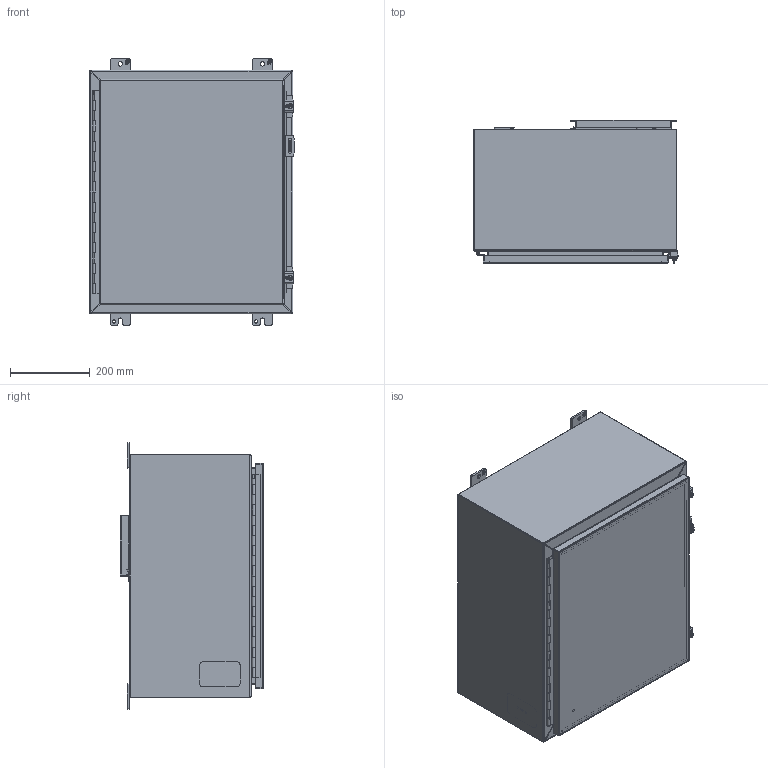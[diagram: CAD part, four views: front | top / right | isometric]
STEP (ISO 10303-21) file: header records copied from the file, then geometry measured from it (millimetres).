
FILE_DESCRIPTION(/* description */ ('Unknown'),/* implementation_level */ '2;1');
FILE_NAME(/* name */ '1418E12LP',/* time_stamp */ '2026-02-20T16:30:05-05:00',/* author */ ('Unknown'),/* organization */ ('Unknown'),/* preprocessor_version */ 'ST-DEVELOPER v18.104',/* originating_system */ 'Solid Edge',/* authorisation */ 'Unknown');
FILE_SCHEMA (('AUTOMOTIVE_DESIGN {1 0 10303 214 3 1 1}'));
Length unit declared in the file: millimetre
Products named in the file (31): 1418E12LP; STD26094; KIT90518; WAF25059; NTS166105; LAB30005; STD21878; COM42780; COM40153-1; COM71780-10; COM40153-2; COM70219_oa_0; HNG10620-20C; PNT11078; COM48458; FET07710; AKT90223; SPR20265; SCC19011; WAF25035; COM42667; HNG10620-20P; HNG10620-20B; BUL10020; QLB30109; PKT99; COM48508; KIT90256; NTS165305; NTS16535
Assembly tree (42 placements, depth 3):
  1418E12LP
    STD26094  x4
    KIT90518
      WAF25059
      NTS166105
      LAB30005
    STD21878
    COM42780  x2
    COM40153-1
    COM71780-10
      COM40153-2
      COM70219_oa_0
      HNG10620-20C
      COM71780-10
      STD21878
      PNT11078
    COM48458
    FET07710  x4
    AKT90223  x2
      SPR20265
      SCC19011
      WAF25035
      COM42667
    HNG10620-20P
    HNG10620-20B
    BUL10020
    QLB30109
    PKT99
    COM48508  x2
    KIT90256
      LAB30005
      NTS165305
      NTS16535
    PNT11078
Bounding box: 511.18 x 358.77 x 666.75 mm (x, y, z)
Volume: 2942072.3 mm3; surface area: 3161967.7 mm2
Topology: 36 solids, 37 shells, 1177 faces, 3035 edges, 1966 vertices
Faces by surface type: plane 770, cylinder 302, bspline 57, cone 26, torus 20, sphere 2
Full cylindrical faces by diameter (mm): 3.175 x1, 4.763 x1, 4.976 x1, 5.41 x2, 6.198 x2, 6.35 x3, 6.731 x2, 7.137 x2, 7.805 x1, 7.938 x4, 8.382 x4, 9.525 x4, 9.906 x2, 11.113 x4, 11.303 x1, 12.7 x2, 16.51 x4, 25.4 x1, 88.9 x1
Entity records: 28508 total; most frequent: CARTESIAN_POINT 7755, ORIENTED_EDGE 4148, DIRECTION 3909, EDGE_CURVE 2074, LINE 1379, VECTOR 1379, VERTEX_POINT 1357, AXIS2_PLACEMENT_3D 1265
